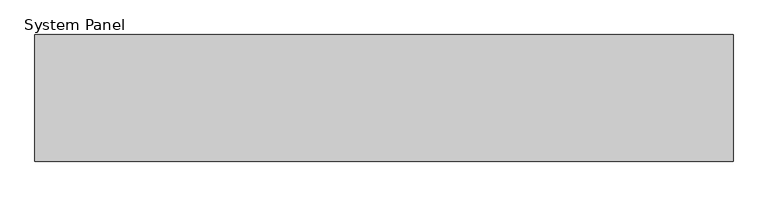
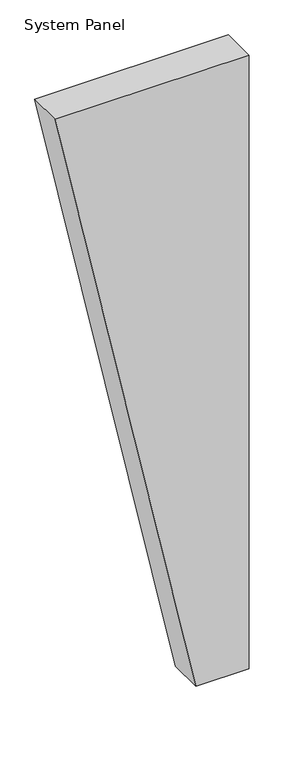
"""IFC4 building model written with IfcOpenShell, lengths in millimetres: plate geometry, System Panel : MetecnoPanel 200mm Vertical - Plain Astro - PIR."""

from ifc_helpers import new_model, si_unit, frame, origin, place, context, project, spatial, polyline, outline, extrude, source, transform, mapped, element, save


def system_panel_362cc927(model_context):
    return source(origin(), model_context, "Body", "SweptSolid", [
        extrude(outline(polyline([(0.0, 250.0), (0.0, 550.0), (3679.9704237, 550.0), (3679.9704237, -550.0), (0.0, 250.0)])), frame((0.0, -200.0, 0.0), z_axis=(0.0, 1.0, 0.0), x_axis=(0.0, 0.0, 1.0)), (0.0, 0.0, 1.0), 200.0),
    ])


if __name__ == "__main__":
    model = new_model("IFC4")
    model_context = context("Model", 3, world=origin())
    ifc_project = project(units=[si_unit("LENGTHUNIT", "METRE", prefix="MILLI")], contexts=[model_context])
    site = spatial("IfcSite", under=ifc_project)
    building = spatial("IfcBuilding", under=site)
    placement = place(None, origin())
    system_panel_shape = system_panel_362cc927(model_context)
    element("IfcPlate", 1, ObjectType="System Panel : MetecnoPanel 200mm Vertical - Plain Astro - PIR", at=placement, inside=building, context=model_context, shape_type="MappedRepresentation", body=[
        mapped(system_panel_shape, transform((0.0, 0.0, 0.0), x_axis=(1.0, 0.0, 0.0), y_axis=(0.0, 1.0, 0.0), z_axis=(0.0, 0.0, 1.0))),
    ])
    save(model, "model.ifc")
